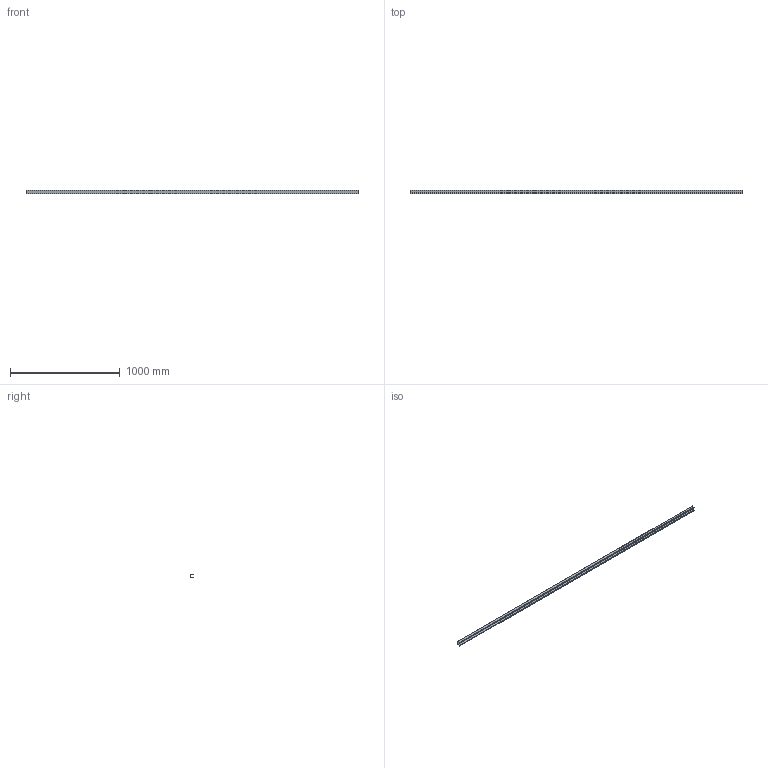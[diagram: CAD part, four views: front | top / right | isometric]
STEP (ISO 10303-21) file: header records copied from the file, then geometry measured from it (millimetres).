
FILE_DESCRIPTION (( 'STEP AP203' ), '1' );
FILE_NAME ('3535 Cover square.STEP', '2026-04-20T12:28:48', ( '' ), ( '' ), 'SwSTEP 2.0', 'SolidWorks 2025', '' );
FILE_SCHEMA (( 'CONFIG_CONTROL_DESIGN' ));
Length unit declared in the file: millimetre
Products named in the file (1): 3535 Cover square
Bounding box: 3020 x 32.24 x 35.03 mm (x, y, z)
Volume: 380664.2 mm3; surface area: 606963.4 mm2
Topology: 1 solids, 1 shells, 42 faces, 120 edges, 80 vertices
Faces by surface type: cylinder 22, plane 20
Entity records: 1465 total; most frequent: DIRECTION 250, CARTESIAN_POINT 243, ORIENTED_EDGE 240, EDGE_CURVE 120, AXIS2_PLACEMENT_3D 87, VERTEX_POINT 80, VECTOR 76, LINE 76
